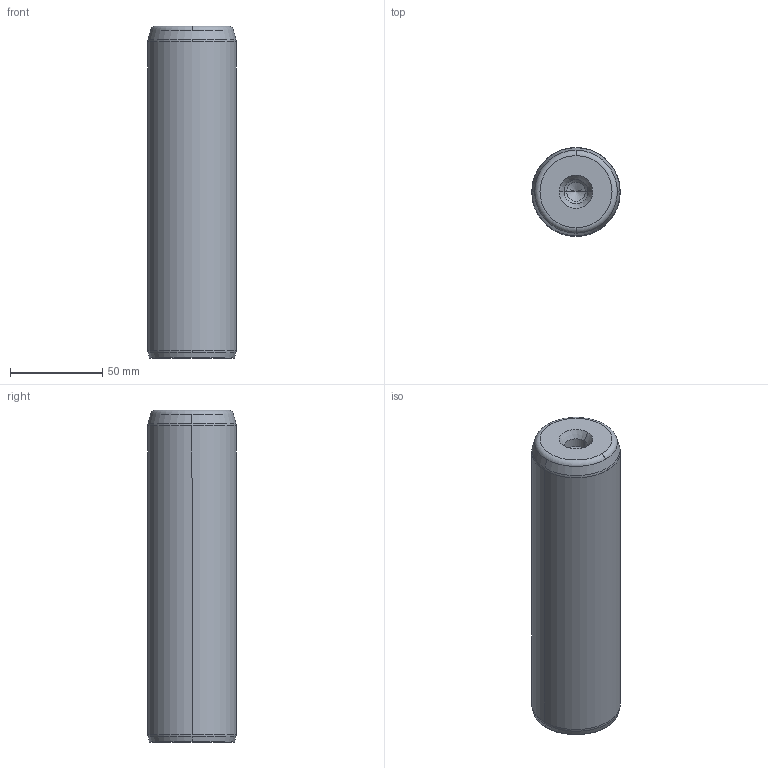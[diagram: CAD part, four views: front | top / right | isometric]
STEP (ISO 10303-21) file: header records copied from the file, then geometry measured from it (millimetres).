
FILE_DESCRIPTION((''),'2;1');
FILE_NAME('P10_048_180.stp','2008-12-23T16:07:40',(''),(''),'Mechanical Desktop 2009','Mechanical Desktop 2009',', , ');
FILE_SCHEMA(('CONFIG_CONTROL_DESIGN'));
Length unit declared in the file: millimetre
Products named in the file (5): Product; ProductAA; blmdl1; ProductA; blmdl1A
Assembly tree (2 placements, depth 3):
  Product
    ProductAA
      blmdl1
  ProductA
  blmdl1A
Bounding box: 48 x 48 x 180 mm (x, y, z)
Volume: 320153.9 mm3; surface area: 31420.2 mm2
Topology: 1 solids, 1 shells, 26 faces, 66 edges, 41 vertices
Faces by surface type: cone 10, torus 8, cylinder 6, plane 2
Entity records: 1012 total; most frequent: DIRECTION 170, CARTESIAN_POINT 134, ORIENTED_EDGE 128, AXIS2_PLACEMENT_3D 77, EDGE_CURVE 64, CIRCLE 48, VERTEX_POINT 41, EDGE_LOOP 27
